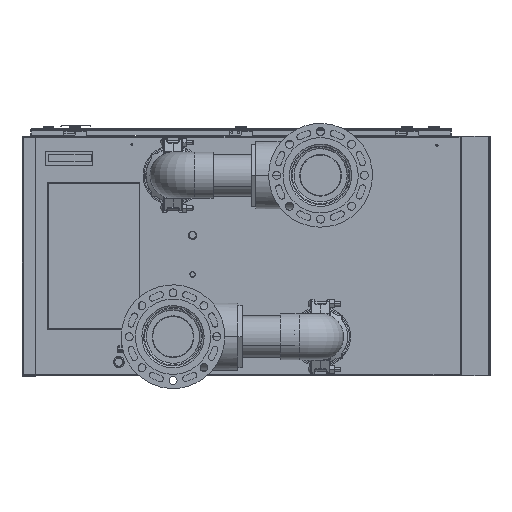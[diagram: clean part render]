
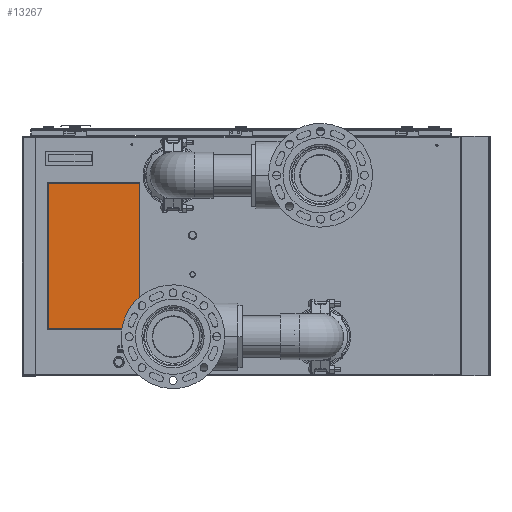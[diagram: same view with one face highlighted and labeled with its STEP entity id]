
A CAD part, left-side view. The second image highlights one B-rep face of the part: STEP entity #13267.
In plain terms, the highlighted planar face has unit normal (-1, 0, 0).
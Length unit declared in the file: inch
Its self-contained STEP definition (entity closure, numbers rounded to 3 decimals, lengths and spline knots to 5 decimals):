
#1452 = EDGE_CURVE ( 'NONE', #84129, #20616, #57823, .T. ) ;
#2548 = VECTOR ( 'NONE', #56315, 39.37008 ) ;
#4886 = VERTEX_POINT ( 'NONE', #58084 ) ;
#5249 = LINE ( 'NONE', #59319, #72994 ) ;
#13267 = ADVANCED_FACE ( 'NONE', ( #33528 ), #64041, .T. ) ;
#13751 = DIRECTION ( 'NONE',  ( 0., 1., 0. ) ) ;
#14593 = AXIS2_PLACEMENT_3D ( 'NONE', #71230, #31894, #77831 ) ;
#19655 = VERTEX_POINT ( 'NONE', #22204 ) ;
#20525 = CARTESIAN_POINT ( 'NONE',  ( -12.38569, 23.33008, 7.30508 ) ) ;
#20616 = VERTEX_POINT ( 'NONE', #47131 ) ;
#22204 = CARTESIAN_POINT ( 'NONE',  ( -12.38569, 13.45558, 7.26992 ) ) ;
#22995 = VECTOR ( 'NONE', #79376, 39.37008 ) ;
#23845 = EDGE_CURVE ( 'NONE', #20616, #4886, #32636, .T. ) ;
#29591 = ORIENTED_EDGE ( 'NONE', *, *, #80266, .T. ) ;
#31579 = ORIENTED_EDGE ( 'NONE', *, *, #1452, .T. ) ;
#31894 = DIRECTION ( 'NONE',  ( -1., 0., 0. ) ) ;
#32636 = LINE ( 'NONE', #43983, #47982 ) ;
#33528 = FACE_OUTER_BOUND ( 'NONE', #50718, .T. ) ;
#43983 = CARTESIAN_POINT ( 'NONE',  ( -12.38569, 23.36524, -8.47908 ) ) ;
#45487 = ORIENTED_EDGE ( 'NONE', *, *, #23845, .T. ) ;
#46240 = ORIENTED_EDGE ( 'NONE', *, *, #75578, .T. ) ;
#47131 = CARTESIAN_POINT ( 'NONE',  ( -12.38569, 23.33008, -8.47908 ) ) ;
#47982 = VECTOR ( 'NONE', #57219, 39.37008 ) ;
#50718 = EDGE_LOOP ( 'NONE', ( #31579, #45487, #46240, #29591 ) ) ;
#54989 = LINE ( 'NONE', #75838, #2548 ) ;
#56315 = DIRECTION ( 'NONE',  ( 0., 0., 1. ) ) ;
#56408 = CARTESIAN_POINT ( 'NONE',  ( -12.38569, 23.33008, 7.26992 ) ) ;
#57219 = DIRECTION ( 'NONE',  ( 0., -1., 0. ) ) ;
#57823 = LINE ( 'NONE', #20525, #22995 ) ;
#58084 = CARTESIAN_POINT ( 'NONE',  ( -12.38569, 13.45558, -8.47908 ) ) ;
#59319 = CARTESIAN_POINT ( 'NONE',  ( -12.38569, 13.45558, 7.26992 ) ) ;
#64041 = PLANE ( 'NONE',  #14593 ) ;
#71230 = CARTESIAN_POINT ( 'NONE',  ( -12.38569, 18.45558, -0.60458 ) ) ;
#72994 = VECTOR ( 'NONE', #13751, 39.37008 ) ;
#75578 = EDGE_CURVE ( 'NONE', #4886, #19655, #54989, .T. ) ;
#75838 = CARTESIAN_POINT ( 'NONE',  ( -12.38569, 13.45558, -8.60458 ) ) ;
#77831 = DIRECTION ( 'NONE',  ( 0., 0., 1. ) ) ;
#79376 = DIRECTION ( 'NONE',  ( 0., 0., -1. ) ) ;
#80266 = EDGE_CURVE ( 'NONE', #19655, #84129, #5249, .T. ) ;
#84129 = VERTEX_POINT ( 'NONE', #56408 ) ;
